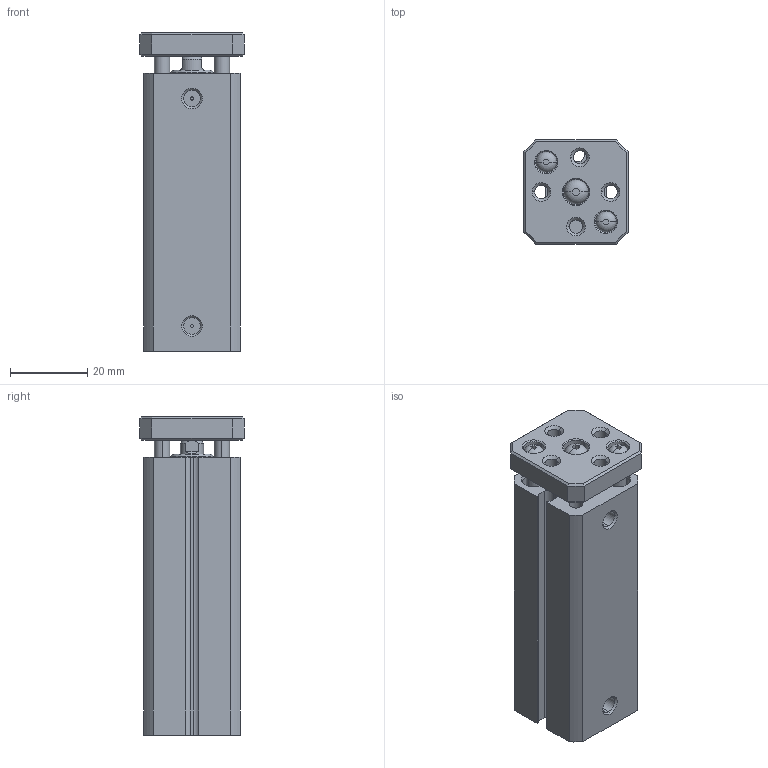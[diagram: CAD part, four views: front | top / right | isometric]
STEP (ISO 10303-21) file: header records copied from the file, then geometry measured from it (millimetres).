
FILE_DESCRIPTION (( 'STEP AP214' ), '1' );
FILE_NAME ('MCGJ-12-12-50.STEP', '2013-10-22T20:44:01', ( 'user' ), ( '' ), 'SwSTEP 2.0', 'SolidWorks 2009', '' );
FILE_SCHEMA (( 'AUTOMOTIVE_DESIGN' ));
Length unit declared in the file: millimetre
Products named in the file (1): MCGJ-12-12-50
Bounding box: 27 x 27 x 82.5 mm (x, y, z)
Volume: 39556 mm3; surface area: 17057.3 mm2
Topology: 1 solids, 4 shells, 247 faces, 598 edges, 382 vertices
Faces by surface type: plane 113, cylinder 90, cone 38, torus 6
Entity records: 7445 total; most frequent: CARTESIAN_POINT 1436, DIRECTION 1316, ORIENTED_EDGE 1196, EDGE_CURVE 598, AXIS2_PLACEMENT_3D 496, VERTEX_POINT 382, LINE 324, VECTOR 324
